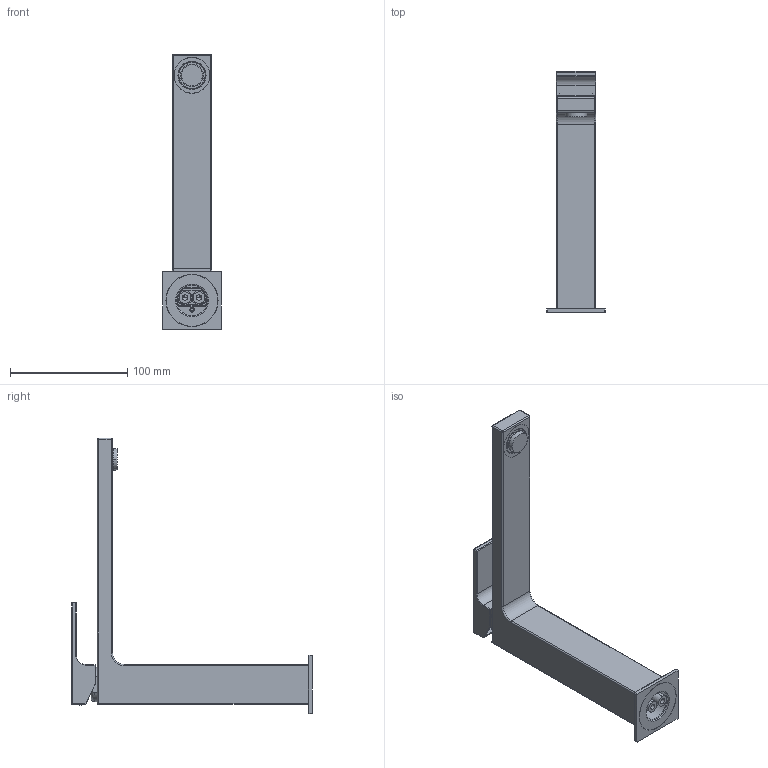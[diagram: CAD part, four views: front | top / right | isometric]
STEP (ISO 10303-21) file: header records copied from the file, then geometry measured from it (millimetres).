
FILE_DESCRIPTION((''),'2;1');
FILE_NAME('35040_SW0001','2026-02-03T16:49:03',('carloff'),(''),'CREO PARAMETRIC BY PTC INC, 2022014','CREO PARAMETRIC BY PTC INC, 2022014','');
FILE_SCHEMA(('CONFIG_CONTROL_DESIGN'));
Products named in the file (1): 35040_SW0001
Bounding box: 50 x 205.4 x 235 mm (x, y, z)
Volume: 185750.9 mm3; surface area: 118438.5 mm2
Topology: 1 solids, 1 shells, 1904 faces, 4644 edges, 2710 vertices
Faces by surface type: cylinder 711, plane 424, bspline 290, torus 276, sphere 102, cone 101
Entity records: 85168 total; most frequent: CARTESIAN_POINT 42752, ORIENTED_EDGE 9142, DIRECTION 8715, EDGE_CURVE 4571, AXIS2_PLACEMENT_3D 3600, VERTEX_POINT 2710, EDGE_LOOP 1993, CIRCLE 1986
